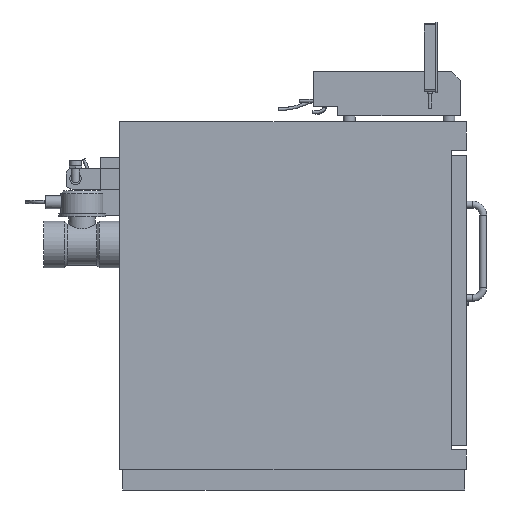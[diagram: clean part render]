
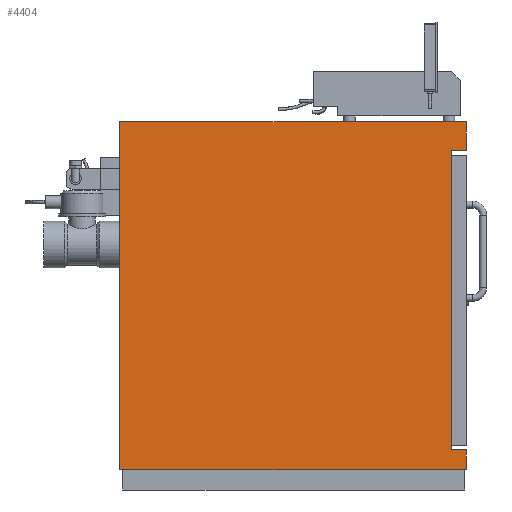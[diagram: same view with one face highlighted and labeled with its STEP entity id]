
A CAD part, left-side view. The second image highlights one B-rep face of the part: STEP entity #4404.
In plain terms, the highlighted planar face has unit normal (-1, 0, 0).
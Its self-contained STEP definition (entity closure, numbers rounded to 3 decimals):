
#670=ORIENTED_EDGE('',*,*,#1281,.F.);
#671=ORIENTED_EDGE('',*,*,#1278,.T.);
#672=ORIENTED_EDGE('',*,*,#1273,.T.);
#673=ORIENTED_EDGE('',*,*,#1272,.F.);
#674=ORIENTED_EDGE('',*,*,#1298,.F.);
#675=ORIENTED_EDGE('',*,*,#1168,.T.);
#676=ORIENTED_EDGE('',*,*,#1299,.T.);
#677=ORIENTED_EDGE('',*,*,#1282,.F.);
#1168=EDGE_CURVE('',#1537,#1536,#1810,.T.);
#1272=EDGE_CURVE('',#1620,#1617,#1894,.T.);
#1273=EDGE_CURVE('',#1621,#1617,#1895,.T.);
#1278=EDGE_CURVE('',#1624,#1621,#1900,.T.);
#1281=EDGE_CURVE('',#1624,#1626,#1903,.T.);
#1282=EDGE_CURVE('',#1626,#1627,#1904,.T.);
#1298=EDGE_CURVE('',#1537,#1620,#1917,.T.);
#1299=EDGE_CURVE('',#1536,#1627,#1918,.T.);
#1536=VERTEX_POINT('',#6025);
#1537=VERTEX_POINT('',#6027);
#1617=VERTEX_POINT('',#6238);
#1620=VERTEX_POINT('',#6243);
#1621=VERTEX_POINT('',#6247);
#1624=VERTEX_POINT('',#6254);
#1626=VERTEX_POINT('',#6260);
#1627=VERTEX_POINT('',#6265);
#1810=LINE('',#6026,#2068);
#1894=LINE('',#6244,#2152);
#1895=LINE('',#6246,#2153);
#1900=LINE('',#6256,#2158);
#1903=LINE('',#6262,#2161);
#1904=LINE('',#6264,#2162);
#1917=LINE('',#6295,#2175);
#1918=LINE('',#6297,#2176);
#2068=VECTOR('',#5109,1000.);
#2152=VECTOR('',#5293,1000.);
#2153=VECTOR('',#5296,1000.);
#2158=VECTOR('',#5303,1000.);
#2161=VECTOR('',#5308,1000.);
#2162=VECTOR('',#5311,1000.);
#2175=VECTOR('',#5342,1000.);
#2176=VECTOR('',#5345,1000.);
#2372=EDGE_LOOP('',(#670,#671,#672,#673,#674,#675,#676,#677));
#2660=FACE_BOUND('',#2372,.T.);
#2881=PLANE('',#4681);
#4404=ADVANCED_FACE('',(#2660),#2881,.F.);
#4681=AXIS2_PLACEMENT_3D('',#6296,#5343,#5344);
#5109=DIRECTION('',(0.,0.,-1.));
#5293=DIRECTION('',(0.,0.,-1.));
#5296=DIRECTION('',(0.,-1.,0.));
#5303=DIRECTION('',(0.,0.,1.));
#5308=DIRECTION('',(0.,-1.,0.));
#5311=DIRECTION('',(0.,0.,-1.));
#5342=DIRECTION('',(0.,-1.,0.));
#5343=DIRECTION('',(1.,0.,0.));
#5344=DIRECTION('',(0.,0.,-1.));
#5345=DIRECTION('',(0.,-1.,0.));
#6025=CARTESIAN_POINT('',(0.,593.5,0.));
#6026=CARTESIAN_POINT('',(0.,593.5,596.));
#6027=CARTESIAN_POINT('',(0.,593.5,596.));
#6238=CARTESIAN_POINT('',(0.,0.,547.));
#6243=CARTESIAN_POINT('',(0.,0.,596.));
#6244=CARTESIAN_POINT('',(0.,0.,596.));
#6246=CARTESIAN_POINT('',(0.,26.,547.));
#6247=CARTESIAN_POINT('',(0.,26.,547.));
#6254=CARTESIAN_POINT('',(0.,26.,34.));
#6256=CARTESIAN_POINT('',(0.,26.,547.));
#6260=CARTESIAN_POINT('',(0.,0.,34.));
#6262=CARTESIAN_POINT('',(0.,26.,34.));
#6264=CARTESIAN_POINT('',(0.,0.,596.));
#6265=CARTESIAN_POINT('',(0.,0.,0.));
#6295=CARTESIAN_POINT('',(0.,493.,596.));
#6296=CARTESIAN_POINT('',(0.,493.,596.));
#6297=CARTESIAN_POINT('',(0.,493.,0.));
